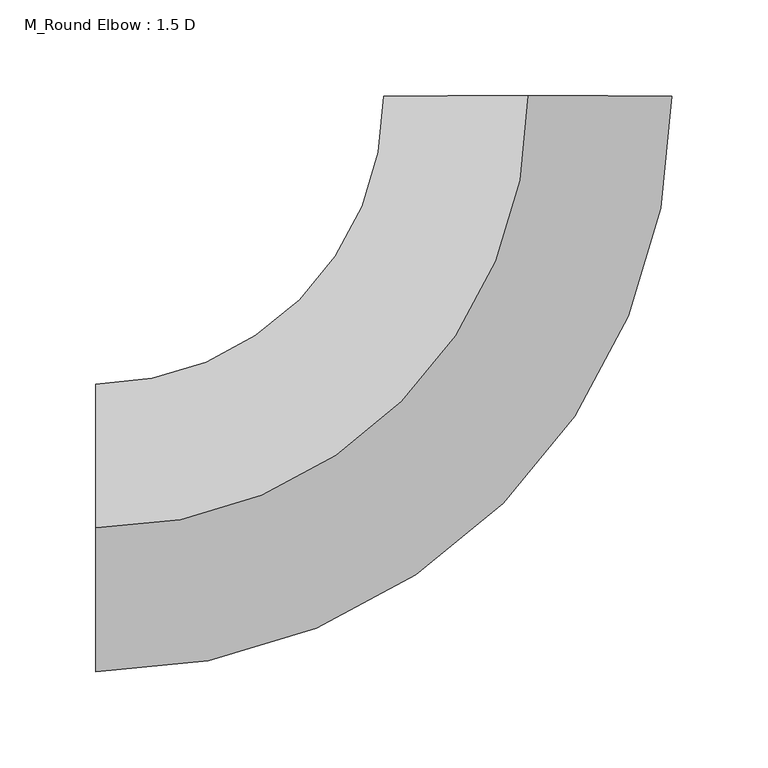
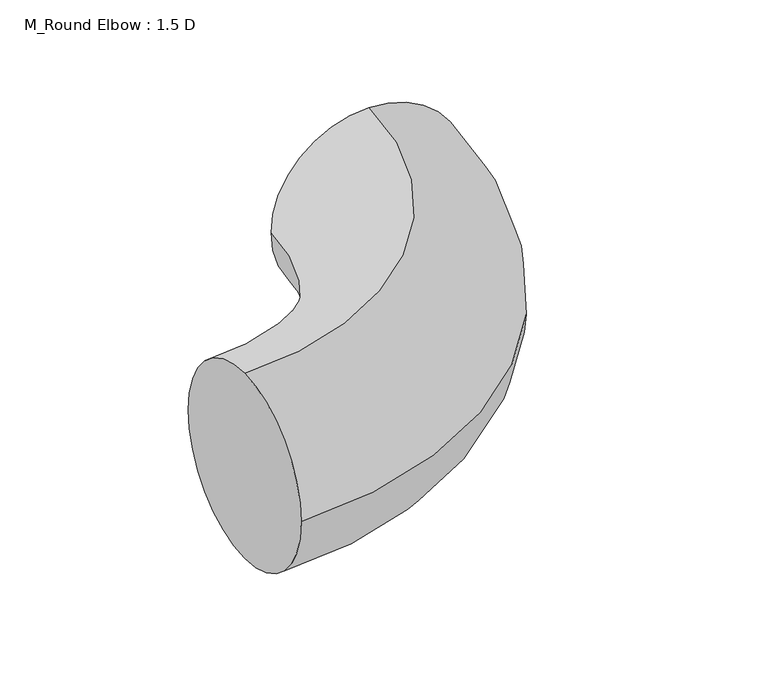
"""IFC4 building model written with IfcOpenShell, lengths in millimetres: duct fitting geometry, M_Round Elbow : 1.5 D."""

from ifc_helpers import new_model, si_unit, point, frame, origin, place, context, project, spatial, circle_curve, ellipse_curve, trimmed, source, transform, mapped, element, save
from ifc_brep_helpers import plane_surface, revolved_surface, advanced_brep


def m_round_elbow_1_5_d_2256b737(model_context):
    return source(origin(), model_context, "Body", "AdvancedBrep", [
        advanced_brep(
        [(-225.0030262, 0.0, 75.0), (-225.0030262, 75.0, 0.0), (-225.0030262, 0.0, -75.0), (-225.0030262, -75.0, 0.0), (-0.0030262, 225.0030262, 75.0), (74.9969737, 225.0040349, 0.0), (-0.0030262, 225.0030262, -75.0), (-75.0030262, 225.0020175, 0.0)],
        [
            (0, 1, circle_curve(frame((-225.0030262, 0.0, 0.0), z_axis=(-1.0, 0.0, 0.0), x_axis=(0.0, 1.0, 0.0)), 75.0)),
            (1, 2, circle_curve(frame((-225.0030262, 0.0, 0.0), z_axis=(-1.0, 0.0, 0.0), x_axis=(0.0, 1.0, 0.0)), 75.0)),
            (2, 3, circle_curve(frame((-225.0030262, 0.0, 0.0), z_axis=(-1.0, 0.0, 0.0), x_axis=(0.0, 1.0, 0.0)), 75.0)),
            (3, 0, circle_curve(frame((-225.0030262, 0.0, 0.0), z_axis=(-1.0, 0.0, 0.0), x_axis=(0.0, 1.0, 0.0)), 75.0)),
            (4, 5, circle_curve(frame((-0.0030262, 225.0030262, 0.0), z_axis=(-1.3449807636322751e-05, 0.9999999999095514, 0.0), x_axis=(-0.9999999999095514, -1.3449807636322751e-05, 0.0)), 75.0)),
            (5, 6, circle_curve(frame((-0.0030262, 225.0030262, 0.0), z_axis=(-1.3449807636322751e-05, 0.9999999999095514, 0.0), x_axis=(-0.9999999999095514, -1.3449807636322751e-05, 0.0)), 75.0)),
            (6, 7, circle_curve(frame((-0.0030262, 225.0030262, 0.0), z_axis=(-1.3449807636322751e-05, 0.9999999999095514, 0.0), x_axis=(-0.9999999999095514, -1.3449807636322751e-05, 0.0)), 75.0)),
            (7, 4, circle_curve(frame((-0.0030262, 225.0030262, 0.0), z_axis=(-1.3449807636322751e-05, 0.9999999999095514, 0.0), x_axis=(-0.9999999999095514, -1.3449807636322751e-05, 0.0)), 75.0)),
            (7, 1, circle_curve(frame((-225.0030262, 225.0, 0.0), z_axis=(0.0, 0.0, -1.0), x_axis=(0.0, -1.0, 0.0)), 150.0)),
            (0, 4, circle_curve(frame((-225.0030262, 225.0, 75.0), z_axis=(0.0, 0.0, 1.0), x_axis=(0.0, -1.0, 0.0)), 225.0)),
            (6, 2, circle_curve(frame((-225.0030262, 225.0, -75.0), z_axis=(0.0, 0.0, -1.0), x_axis=(0.0, -1.0, 0.0)), 225.0)),
            (5, 3, circle_curve(frame((-225.0030262, 225.0, 0.0), z_axis=(0.0, 0.0, -1.0), x_axis=(0.0, -1.0, 0.0)), 300.0)),
        ],
        [
            plane_surface(frame((-225.0030262, 0.0, 0.0), z_axis=(-1.0, 0.0, 0.0), x_axis=(0.0, 0.0, 1.0))),
            plane_surface(frame((-0.0030262, 225.0030262, 0.0), z_axis=(-1.3449807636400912e-05, 0.9999999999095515, 0.0), x_axis=(0.0, 0.0, 1.0))),
            revolved_surface(trimmed(ellipse_curve(frame((-225.0030262, 0.0, 0.0), z_axis=(-1.0, 0.0, 0.0), x_axis=(0.0, 1.0, 0.0)), 75.0, 75.0), [point((-225.0030262, 0.0, 75.0))], [point((-225.0030262, 75.0, 0.0))], True, "CARTESIAN"), (-225.0030262, 225.0, 0.0), (0.0, 0.0, 1.0)),
            revolved_surface(trimmed(ellipse_curve(frame((-225.0030262, 0.0, 0.0), z_axis=(-1.0, 0.0, 0.0), x_axis=(0.0, 1.0, 0.0)), 75.0, 75.0), [point((-225.0030262, 75.0, 0.0))], [point((-225.0030262, 0.0, -75.0))], True, "CARTESIAN"), (-225.0030262, 225.0, 0.0), (0.0, 0.0, 1.0)),
            revolved_surface(trimmed(ellipse_curve(frame((-225.0030262, 0.0, 0.0), z_axis=(-1.0, 0.0, 0.0), x_axis=(0.0, 1.0, 0.0)), 75.0, 75.0), [point((-225.0030262, 0.0, -75.0))], [point((-225.0030262, -75.0, 0.0))], True, "CARTESIAN"), (-225.0030262, 225.0, 0.0), (0.0, 0.0, 1.0)),
            revolved_surface(trimmed(ellipse_curve(frame((-225.0030262, 0.0, 0.0), z_axis=(-1.0, 0.0, 0.0), x_axis=(0.0, 1.0, 0.0)), 75.0, 75.0), [point((-225.0030262, -75.0, 0.0))], [point((-225.0030262, 0.0, 75.0))], True, "CARTESIAN"), (-225.0030262, 225.0, 0.0), (0.0, 0.0, 1.0)),
        ],
        [
            (0, [[1, 2, 3, 4]]),
            (1, [[5, 6, 7, 8]]),
            (2, [[9, -1, 10, -8]]),
            (3, [[11, -2, -9, -7]]),
            (4, [[12, -3, -11, -6]]),
            (5, [[-10, -4, -12, -5]]),
        ],
    ),
        advanced_brep(
        [(-225.0030262, 0.0, 75.0), (-225.0030262, 75.0, 0.0), (-225.0030262, 0.0, -75.0), (-225.0030262, -75.0, 0.0), (-0.0030262, 225.0030262, 75.0), (74.9969737, 225.0040349, 0.0), (-0.0030262, 225.0030262, -75.0), (-75.0030262, 225.0020175, 0.0)],
        [
            (0, 1, circle_curve(frame((-225.0030262, 0.0, 0.0), z_axis=(-1.0, 0.0, 0.0), x_axis=(0.0, 1.0, 0.0)), 75.0)),
            (1, 2, circle_curve(frame((-225.0030262, 0.0, 0.0), z_axis=(-1.0, 0.0, 0.0), x_axis=(0.0, 1.0, 0.0)), 75.0)),
            (2, 3, circle_curve(frame((-225.0030262, 0.0, 0.0), z_axis=(-1.0, 0.0, 0.0), x_axis=(0.0, 1.0, 0.0)), 75.0)),
            (3, 0, circle_curve(frame((-225.0030262, 0.0, 0.0), z_axis=(-1.0, 0.0, 0.0), x_axis=(0.0, 1.0, 0.0)), 75.0)),
            (4, 5, circle_curve(frame((-0.0030262, 225.0030262, 0.0), z_axis=(-1.3449807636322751e-05, 0.9999999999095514, 0.0), x_axis=(-0.9999999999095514, -1.3449807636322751e-05, 0.0)), 75.0)),
            (5, 6, circle_curve(frame((-0.0030262, 225.0030262, 0.0), z_axis=(-1.3449807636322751e-05, 0.9999999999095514, 0.0), x_axis=(-0.9999999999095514, -1.3449807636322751e-05, 0.0)), 75.0)),
            (6, 7, circle_curve(frame((-0.0030262, 225.0030262, 0.0), z_axis=(-1.3449807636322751e-05, 0.9999999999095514, 0.0), x_axis=(-0.9999999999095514, -1.3449807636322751e-05, 0.0)), 75.0)),
            (7, 4, circle_curve(frame((-0.0030262, 225.0030262, 0.0), z_axis=(-1.3449807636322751e-05, 0.9999999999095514, 0.0), x_axis=(-0.9999999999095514, -1.3449807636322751e-05, 0.0)), 75.0)),
            (7, 1, circle_curve(frame((-225.0030262, 225.0, 0.0), z_axis=(0.0, 0.0, -1.0), x_axis=(0.0, -1.0, 0.0)), 150.0)),
            (0, 4, circle_curve(frame((-225.0030262, 225.0, 75.0), z_axis=(0.0, 0.0, 1.0), x_axis=(0.0, -1.0, 0.0)), 225.0)),
            (6, 2, circle_curve(frame((-225.0030262, 225.0, -75.0), z_axis=(0.0, 0.0, -1.0), x_axis=(0.0, -1.0, 0.0)), 225.0)),
            (5, 3, circle_curve(frame((-225.0030262, 225.0, 0.0), z_axis=(0.0, 0.0, -1.0), x_axis=(0.0, -1.0, 0.0)), 300.0)),
        ],
        [
            plane_surface(frame((-225.0030262, 0.0, 0.0), z_axis=(-1.0, 0.0, 0.0), x_axis=(0.0, 0.0, 1.0))),
            plane_surface(frame((-0.0030262, 225.0030262, 0.0), z_axis=(-1.3449807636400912e-05, 0.9999999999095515, 0.0), x_axis=(0.0, 0.0, 1.0))),
            revolved_surface(trimmed(ellipse_curve(frame((-225.0030262, 0.0, 0.0), z_axis=(-1.0, 0.0, 0.0), x_axis=(0.0, 1.0, 0.0)), 75.0, 75.0), [point((-225.0030262, 0.0, 75.0))], [point((-225.0030262, 75.0, 0.0))], True, "CARTESIAN"), (-225.0030262, 225.0, 0.0), (0.0, 0.0, 1.0)),
            revolved_surface(trimmed(ellipse_curve(frame((-225.0030262, 0.0, 0.0), z_axis=(-1.0, 0.0, 0.0), x_axis=(0.0, 1.0, 0.0)), 75.0, 75.0), [point((-225.0030262, 75.0, 0.0))], [point((-225.0030262, 0.0, -75.0))], True, "CARTESIAN"), (-225.0030262, 225.0, 0.0), (0.0, 0.0, 1.0)),
            revolved_surface(trimmed(ellipse_curve(frame((-225.0030262, 0.0, 0.0), z_axis=(-1.0, 0.0, 0.0), x_axis=(0.0, 1.0, 0.0)), 75.0, 75.0), [point((-225.0030262, 0.0, -75.0))], [point((-225.0030262, -75.0, 0.0))], True, "CARTESIAN"), (-225.0030262, 225.0, 0.0), (0.0, 0.0, 1.0)),
            revolved_surface(trimmed(ellipse_curve(frame((-225.0030262, 0.0, 0.0), z_axis=(-1.0, 0.0, 0.0), x_axis=(0.0, 1.0, 0.0)), 75.0, 75.0), [point((-225.0030262, -75.0, 0.0))], [point((-225.0030262, 0.0, 75.0))], True, "CARTESIAN"), (-225.0030262, 225.0, 0.0), (0.0, 0.0, 1.0)),
        ],
        [
            (0, [[1, 2, 3, 4]]),
            (1, [[5, 6, 7, 8]]),
            (2, [[9, -1, 10, -8]]),
            (3, [[11, -2, -9, -7]]),
            (4, [[12, -3, -11, -6]]),
            (5, [[-10, -4, -12, -5]]),
        ],
    ),
        advanced_brep(
        [(-225.0030262, 0.0, 75.0), (-225.0030262, 75.0, 0.0), (-225.0030262, 0.0, -75.0), (-225.0030262, -75.0, 0.0), (-0.0030262, 225.0030262, 75.0), (74.9969737, 225.0040349, 0.0), (-0.0030262, 225.0030262, -75.0), (-75.0030262, 225.0020175, 0.0)],
        [
            (0, 1, circle_curve(frame((-225.0030262, 0.0, 0.0), z_axis=(-1.0, 0.0, 0.0), x_axis=(0.0, 1.0, 0.0)), 75.0)),
            (1, 2, circle_curve(frame((-225.0030262, 0.0, 0.0), z_axis=(-1.0, 0.0, 0.0), x_axis=(0.0, 1.0, 0.0)), 75.0)),
            (2, 3, circle_curve(frame((-225.0030262, 0.0, 0.0), z_axis=(-1.0, 0.0, 0.0), x_axis=(0.0, 1.0, 0.0)), 75.0)),
            (3, 0, circle_curve(frame((-225.0030262, 0.0, 0.0), z_axis=(-1.0, 0.0, 0.0), x_axis=(0.0, 1.0, 0.0)), 75.0)),
            (4, 5, circle_curve(frame((-0.0030262, 225.0030262, 0.0), z_axis=(-1.3449807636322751e-05, 0.9999999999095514, 0.0), x_axis=(-0.9999999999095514, -1.3449807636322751e-05, 0.0)), 75.0)),
            (5, 6, circle_curve(frame((-0.0030262, 225.0030262, 0.0), z_axis=(-1.3449807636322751e-05, 0.9999999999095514, 0.0), x_axis=(-0.9999999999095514, -1.3449807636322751e-05, 0.0)), 75.0)),
            (6, 7, circle_curve(frame((-0.0030262, 225.0030262, 0.0), z_axis=(-1.3449807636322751e-05, 0.9999999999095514, 0.0), x_axis=(-0.9999999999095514, -1.3449807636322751e-05, 0.0)), 75.0)),
            (7, 4, circle_curve(frame((-0.0030262, 225.0030262, 0.0), z_axis=(-1.3449807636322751e-05, 0.9999999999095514, 0.0), x_axis=(-0.9999999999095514, -1.3449807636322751e-05, 0.0)), 75.0)),
            (7, 1, circle_curve(frame((-225.0030262, 225.0, 0.0), z_axis=(0.0, 0.0, -1.0), x_axis=(0.0, -1.0, 0.0)), 150.0)),
            (0, 4, circle_curve(frame((-225.0030262, 225.0, 75.0), z_axis=(0.0, 0.0, 1.0), x_axis=(0.0, -1.0, 0.0)), 225.0)),
            (6, 2, circle_curve(frame((-225.0030262, 225.0, -75.0), z_axis=(0.0, 0.0, -1.0), x_axis=(0.0, -1.0, 0.0)), 225.0)),
            (5, 3, circle_curve(frame((-225.0030262, 225.0, 0.0), z_axis=(0.0, 0.0, -1.0), x_axis=(0.0, -1.0, 0.0)), 300.0)),
        ],
        [
            plane_surface(frame((-225.0030262, 0.0, 0.0), z_axis=(-1.0, 0.0, 0.0), x_axis=(0.0, 0.0, 1.0))),
            plane_surface(frame((-0.0030262, 225.0030262, 0.0), z_axis=(-1.3449807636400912e-05, 0.9999999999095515, 0.0), x_axis=(0.0, 0.0, 1.0))),
            revolved_surface(trimmed(ellipse_curve(frame((-225.0030262, 0.0, 0.0), z_axis=(-1.0, 0.0, 0.0), x_axis=(0.0, 1.0, 0.0)), 75.0, 75.0), [point((-225.0030262, 0.0, 75.0))], [point((-225.0030262, 75.0, 0.0))], True, "CARTESIAN"), (-225.0030262, 225.0, 0.0), (0.0, 0.0, 1.0)),
            revolved_surface(trimmed(ellipse_curve(frame((-225.0030262, 0.0, 0.0), z_axis=(-1.0, 0.0, 0.0), x_axis=(0.0, 1.0, 0.0)), 75.0, 75.0), [point((-225.0030262, 75.0, 0.0))], [point((-225.0030262, 0.0, -75.0))], True, "CARTESIAN"), (-225.0030262, 225.0, 0.0), (0.0, 0.0, 1.0)),
            revolved_surface(trimmed(ellipse_curve(frame((-225.0030262, 0.0, 0.0), z_axis=(-1.0, 0.0, 0.0), x_axis=(0.0, 1.0, 0.0)), 75.0, 75.0), [point((-225.0030262, 0.0, -75.0))], [point((-225.0030262, -75.0, 0.0))], True, "CARTESIAN"), (-225.0030262, 225.0, 0.0), (0.0, 0.0, 1.0)),
            revolved_surface(trimmed(ellipse_curve(frame((-225.0030262, 0.0, 0.0), z_axis=(-1.0, 0.0, 0.0), x_axis=(0.0, 1.0, 0.0)), 75.0, 75.0), [point((-225.0030262, -75.0, 0.0))], [point((-225.0030262, 0.0, 75.0))], True, "CARTESIAN"), (-225.0030262, 225.0, 0.0), (0.0, 0.0, 1.0)),
        ],
        [
            (0, [[1, 2, 3, 4]]),
            (1, [[5, 6, 7, 8]]),
            (2, [[9, -1, 10, -8]]),
            (3, [[11, -2, -9, -7]]),
            (4, [[12, -3, -11, -6]]),
            (5, [[-10, -4, -12, -5]]),
        ],
    ),
    ])


if __name__ == "__main__":
    model = new_model("IFC4")
    model_context = context("Model", 3, world=origin())
    ifc_project = project(units=[si_unit("LENGTHUNIT", "METRE", prefix="MILLI")], contexts=[model_context])
    site = spatial("IfcSite", under=ifc_project)
    building = spatial("IfcBuilding", under=site)
    placement = place(None, origin())
    m_round_elbow_1_5_d_shape = m_round_elbow_1_5_d_2256b737(model_context)
    element("IfcDuctFitting", 1, ObjectType="M_Round Elbow : 1.5 D", at=placement, inside=building, context=model_context, shape_type="MappedRepresentation", body=[
        mapped(m_round_elbow_1_5_d_shape, transform((0.0, 0.0, 0.0), x_axis=(1.0, 0.0, 0.0), y_axis=(0.0, 1.0, 0.0), z_axis=(0.0, 0.0, 1.0))),
    ])
    save(model, "model.ifc")
